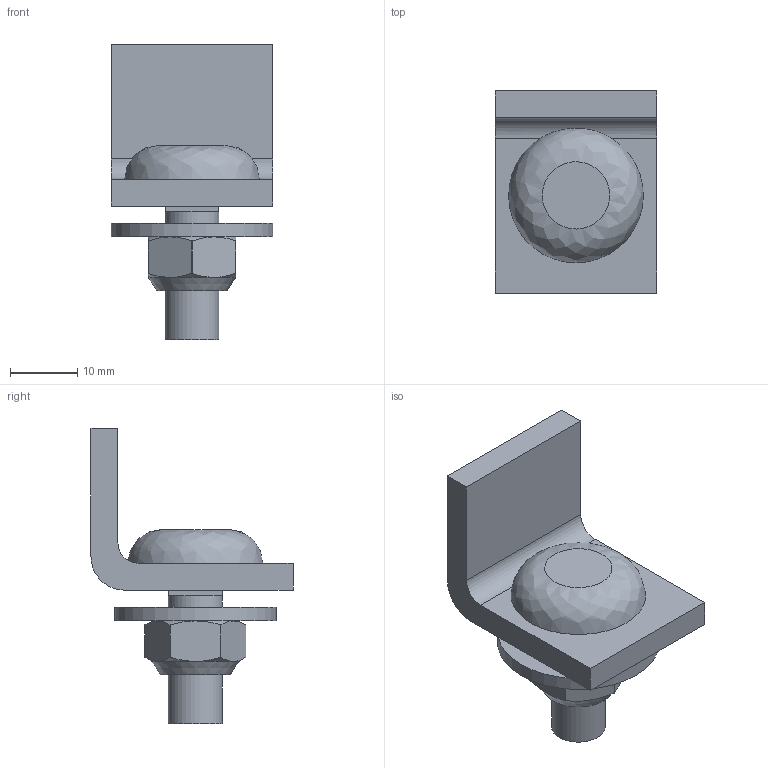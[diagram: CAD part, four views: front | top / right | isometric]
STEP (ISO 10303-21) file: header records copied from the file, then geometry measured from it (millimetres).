
FILE_DESCRIPTION((''),'2;1');
FILE_NAME('C:\Documents and Settings\Administrator\My Documents\Andys Backup Data\WEBSITE\DREAMWEAVER\MiniTec\Products\Modular_Workstations\CAD\Step\32.0226 LIMIT STOP FOR CABLE TROLLEY.stp','2012-10-29T10:59:19',('Administrator'),(''),'Autodesk Inventor 2009','Autodesk Inventor 2009','');
FILE_SCHEMA(('AUTOMOTIVE_DESIGN { 1 0 10303 214 1 1 1 1 }'));
Length unit declared in the file: millimetre
Products named in the file (1): 32.0226 LIMIT STOP FOR CABLE TROLLEY
Bounding box: 24 x 30 x 43.8 mm (x, y, z)
Volume: 8485.5 mm3; surface area: 4598.7 mm2
Topology: 1 solids, 1 shells, 52 faces, 120 edges, 74 vertices
Faces by surface type: plane 27, cone 13, cylinder 11, bspline 1
Full cylindrical faces by diameter (mm): 8 x2, 24 x1
Entity records: 1490 total; most frequent: CARTESIAN_POINT 356, DIRECTION 233, ORIENTED_EDGE 228, EDGE_CURVE 114, AXIS2_PLACEMENT_3D 92, VERTEX_POINT 73, EDGE_LOOP 61, FACE_OUTER_BOUND 52
